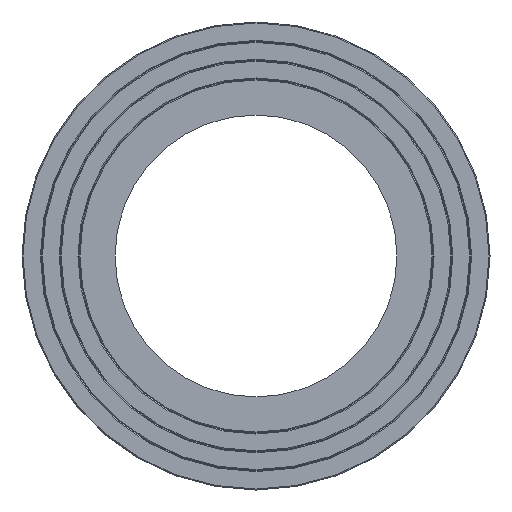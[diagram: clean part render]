
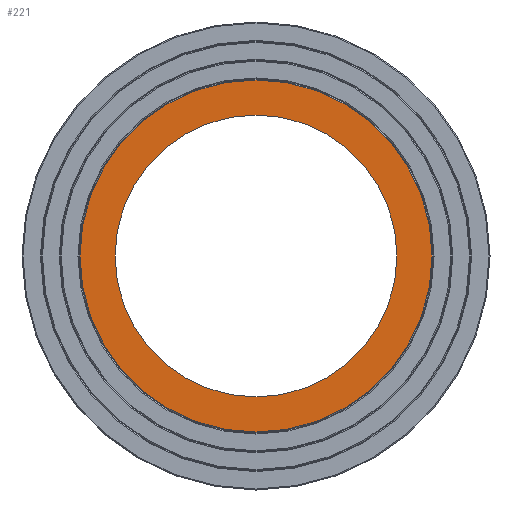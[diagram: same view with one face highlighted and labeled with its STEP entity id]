
A CAD part, left-side view. The second image highlights one B-rep face of the part: STEP entity #221.
In plain terms, the highlighted planar face has unit normal (-1, 0, 0).
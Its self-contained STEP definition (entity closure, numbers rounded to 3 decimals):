
#36=ORIENTED_EDGE('',*,*,#76,.F.);
#37=ORIENTED_EDGE('',*,*,#77,.T.);
#76=EDGE_CURVE('',#96,#96,#116,.T.);
#77=EDGE_CURVE('',#97,#97,#117,.T.);
#96=VERTEX_POINT('',#383);
#97=VERTEX_POINT('',#385);
#116=CIRCLE('',#257,217.7);
#117=CIRCLE('',#258,272.);
#136=EDGE_LOOP('',(#36));
#137=EDGE_LOOP('',(#37));
#176=FACE_BOUND('',#136,.T.);
#177=FACE_BOUND('',#137,.T.);
#215=PLANE('',#256);
#221=ADVANCED_FACE('',(#176,#177),#215,.F.);
#256=AXIS2_PLACEMENT_3D('',#381,#301,#302);
#257=AXIS2_PLACEMENT_3D('',#382,#303,#304);
#258=AXIS2_PLACEMENT_3D('',#384,#305,#306);
#301=DIRECTION('',(1.,0.,0.));
#302=DIRECTION('',(0.,0.,-1.));
#303=DIRECTION('',(-1.,0.,0.));
#304=DIRECTION('',(0.,0.,1.));
#305=DIRECTION('',(-1.,0.,0.));
#306=DIRECTION('',(0.,0.,1.));
#381=CARTESIAN_POINT('',(0.,0.,361.5));
#382=CARTESIAN_POINT('',(0.,0.,0.));
#383=CARTESIAN_POINT('',(0.,0.,217.7));
#384=CARTESIAN_POINT('',(0.,0.,0.));
#385=CARTESIAN_POINT('',(0.,0.,272.));
